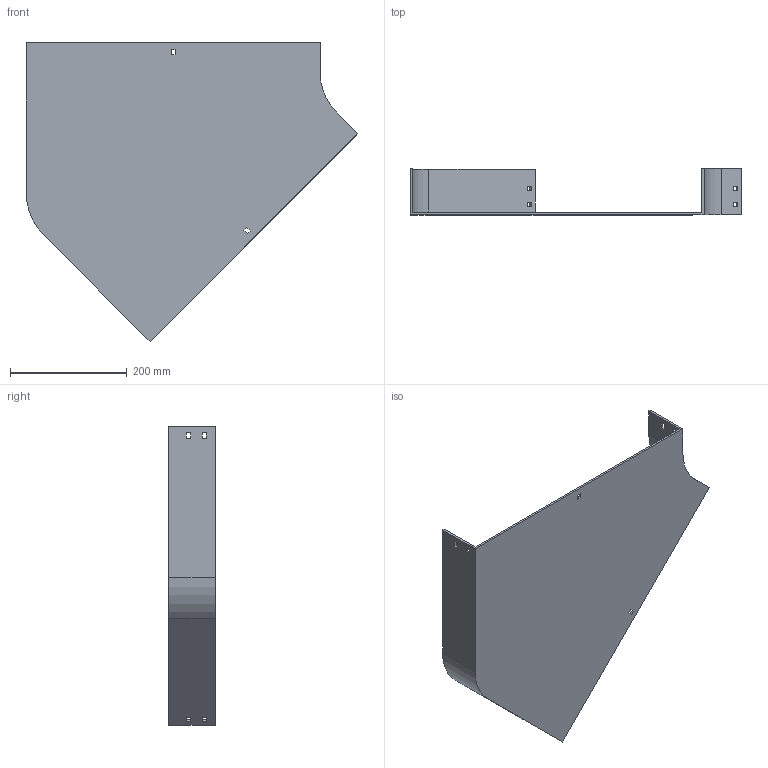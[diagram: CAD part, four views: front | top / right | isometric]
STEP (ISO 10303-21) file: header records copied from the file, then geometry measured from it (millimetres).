
FILE_DESCRIPTION (( 'STEP AP214' ), '1' );
FILE_NAME ('11B1C500.step', '2025-02-21T09:38:51', ( '' ), ( '' ), 'SwSTEP 2.0', 'SolidWorks 2023', '' );
FILE_SCHEMA (( 'AUTOMOTIVE_DESIGN' ));
Length unit declared in the file: millimetre
Products named in the file (1): 11B1C500
Bounding box: 568.64 x 79 x 512.45 mm (x, y, z)
Volume: 893114 mm3; surface area: 518816 mm2
Topology: 1 solids, 1 shells, 58 faces, 168 edges, 112 vertices
Faces by surface type: plane 54, cylinder 4
Entity records: 1943 total; most frequent: CARTESIAN_POINT 339, ORIENTED_EDGE 336, DIRECTION 294, EDGE_CURVE 168, LINE 160, VECTOR 160, VERTEX_POINT 112, EDGE_LOOP 78
